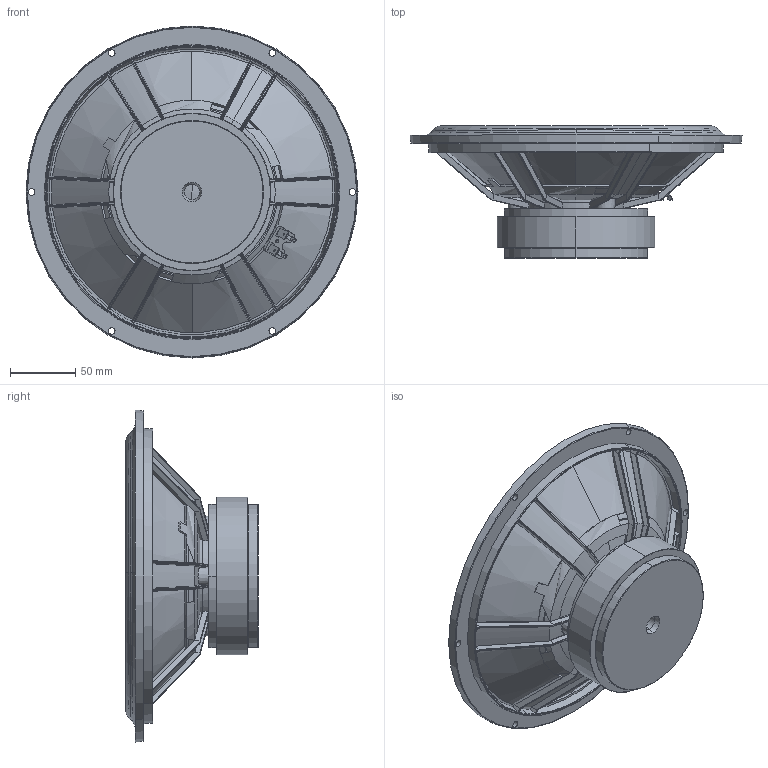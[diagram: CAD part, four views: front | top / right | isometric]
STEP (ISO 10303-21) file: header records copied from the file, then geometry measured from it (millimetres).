
FILE_DESCRIPTION (( 'STEP AP214' ), '1' );
FILE_NAME ('25W-8565-00.STEP', '2020-10-20T08:46:55', ( '' ), ( '' ), 'SwSTEP 2.0', 'SolidWorks 2019', '' );
FILE_SCHEMA (( 'AUTOMOTIVE_DESIGN' ));
Length unit declared in the file: millimetre
Products named in the file (1): 25W-8565-00
Bounding box: 255 x 101.72 x 255 mm (x, y, z)
Volume: 1589758.1 mm3; surface area: 452927.9 mm2
Topology: 18 solids, 18 shells, 979 faces, 2489 edges, 1542 vertices
Faces by surface type: plane 253, cylinder 218, bspline 192, torus 157, cone 155, sphere 4
Entity records: 47718 total; most frequent: CARTESIAN_POINT 15070, ORIENTED_EDGE 4974, DIRECTION 4156, EDGE_CURVE 2487, AXIS2_PLACEMENT_3D 1694, VERTEX_POINT 1542, EDGE_LOOP 1065, FACE_OUTER_BOUND 979
